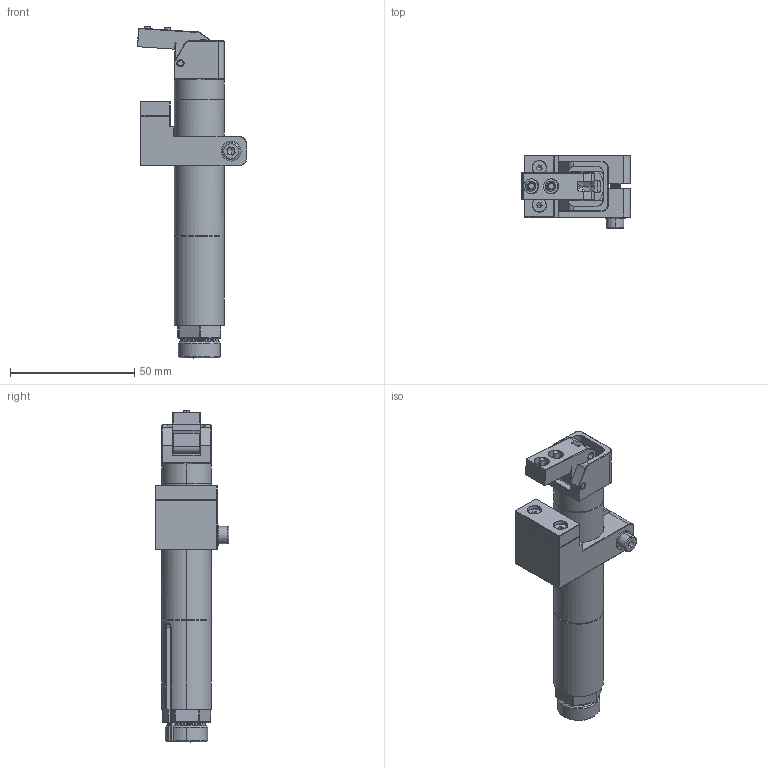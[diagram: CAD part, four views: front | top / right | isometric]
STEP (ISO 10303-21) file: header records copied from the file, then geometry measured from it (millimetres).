
FILE_DESCRIPTION (( 'STEP AP203' ), '1' );
FILE_NAME ('123.STEP', '2024-05-13T06:09:04', ( '微软用户' ), ( '微软中国' ), 'SwSTEP 2.0', 'SolidWorks 2018', '' );
FILE_SCHEMA (( 'CONFIG_CONTROL_DESIGN' ));
Length unit declared in the file: millimetre
Products named in the file (1): 123
Bounding box: 43.9 x 29.5 x 133.47 mm (x, y, z)
Volume: 38854.8 mm3; surface area: 21916.1 mm2
Topology: 11 solids, 11 shells, 867 faces, 2056 edges, 1217 vertices
Faces by surface type: cone 320, plane 271, cylinder 237, torus 35, bspline 2, sphere 2
Entity records: 27554 total; most frequent: CARTESIAN_POINT 8598, ORIENTED_EDGE 4072, DIRECTION 3692, EDGE_CURVE 2036, AXIS2_PLACEMENT_3D 1450, VERTEX_POINT 1213, EDGE_LOOP 915, ADVANCED_FACE 867
